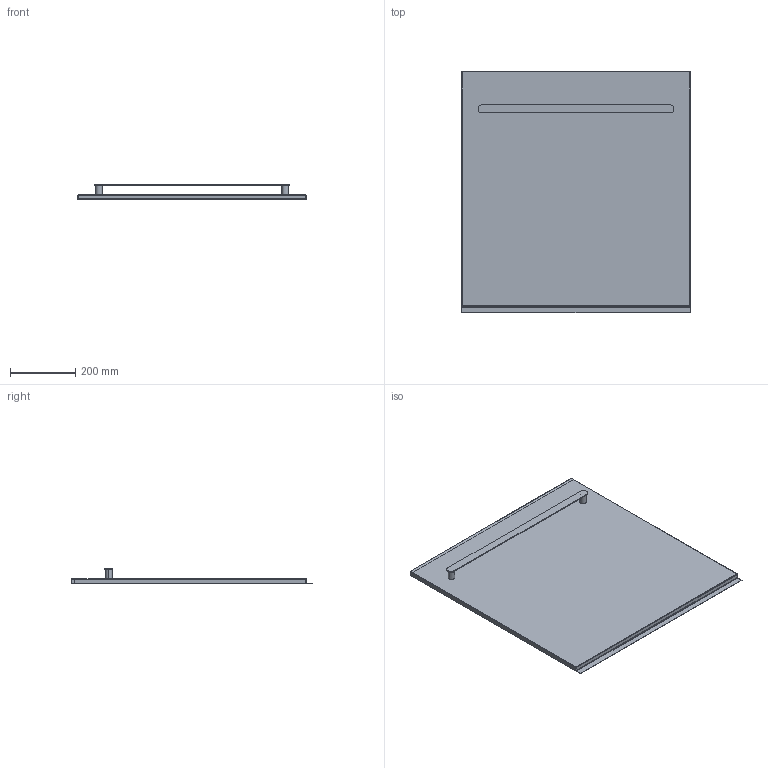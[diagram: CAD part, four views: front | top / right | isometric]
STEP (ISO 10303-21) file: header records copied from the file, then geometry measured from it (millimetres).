
FILE_DESCRIPTION((''),'2;1');
FILE_NAME('CRD_700_EXPORT_STEP','2017-11-27T',('r.avril'),(''),'PRO/ENGINEER BY PARAMETRIC TECHNOLOGY CORPORATION, 2014200','PRO/ENGINEER BY PARAMETRIC TECHNOLOGY CORPORATION, 2014200','');
FILE_SCHEMA(('AP203_CONFIGURATION_CONTROLLED_3D_DESIGN_OF_MECHANICAL_PARTS_AND_ASSEMBLIES_MIM_LF { 1 0 10303 403 2 1 2 }'));
Length unit declared in the file: millimetre
Products named in the file (1): CRD_700_EXPORT_STEP
Bounding box: 700 x 739 x 48 mm (x, y, z)
Volume: 706389.6 mm3; surface area: 1149244.1 mm2
Topology: 1 solids, 1 shells, 39 faces, 86 edges, 52 vertices
Faces by surface type: plane 17, cylinder 16, sphere 4, torus 2
Entity records: 1442 total; most frequent: CARTESIAN_POINT 220, DIRECTION 218, ORIENTED_EDGE 172, EDGE_CURVE 86, AXIS2_PLACEMENT_3D 79, VECTOR 57, LINE 57, VERTEX_POINT 52
